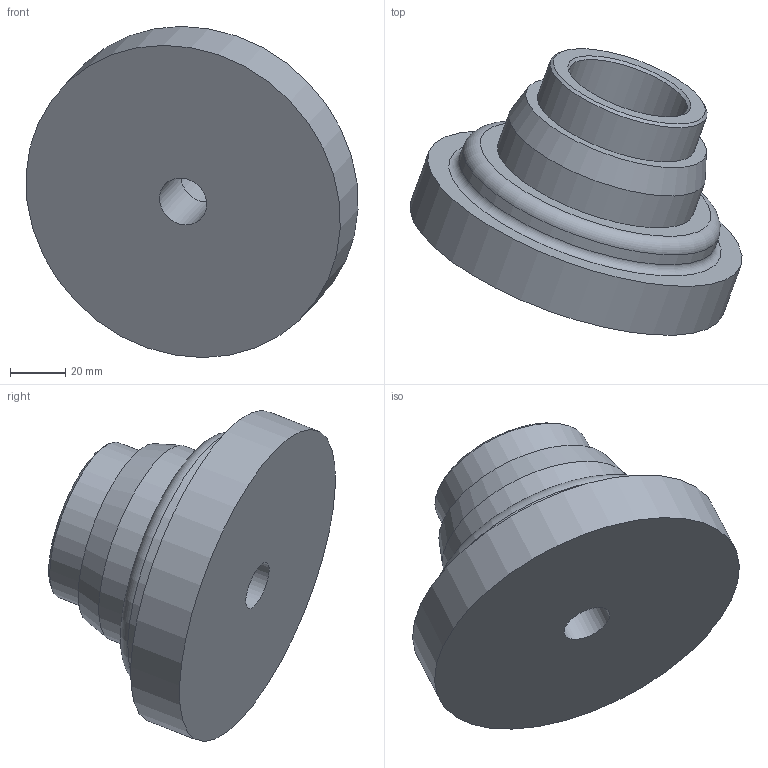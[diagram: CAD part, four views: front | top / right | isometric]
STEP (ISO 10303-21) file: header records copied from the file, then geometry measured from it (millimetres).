
FILE_DESCRIPTION((''),'2;1');
FILE_NAME('C:\Users\User\Desktop\Mastercam-harjoitukset\MCAM_LATHE_1\MCAM_LATHE_1.stp','2020-03-24T22:27:11',(''),(''),'STEP Write','Mastercam 2020 ... CNC Software, Inc.','');
FILE_SCHEMA(('AUTOMOTIVE_DESIGN'));
Length unit declared in the file: millimetre
Products named in the file (1): None
Bounding box: 119.92 x 103.52 x 119.6 mm (x, y, z)
Volume: 402125.9 mm3; surface area: 45815.6 mm2
Topology: 1 solids, 1 shells, 20 faces, 38 edges, 25 vertices
Faces by surface type: cylinder 7, plane 7, cone 4, torus 2
Full cylindrical faces by diameter (mm): 18 x1, 25 x1, 45 x1, 60 x1, 75 x1, 98 x1, 120 x1
Entity records: 459 total; most frequent: DIRECTION 84, CARTESIAN_POINT 62, AXIS2_PLACEMENT_3D 42, ORIENTED_EDGE 40, EDGE_LOOP 40, FACE_BOUND 29, STYLED_ITEM 22, VERTEX_POINT 20
